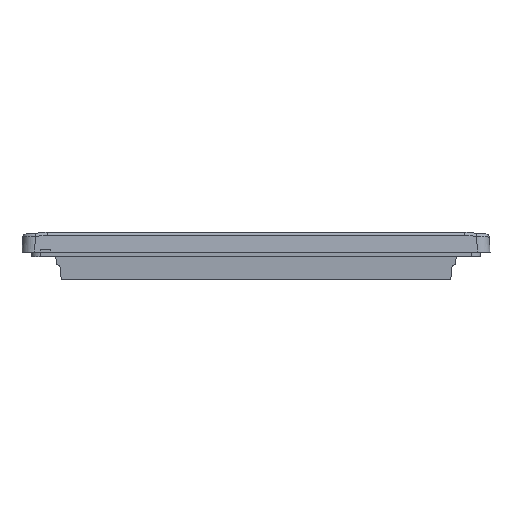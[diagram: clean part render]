
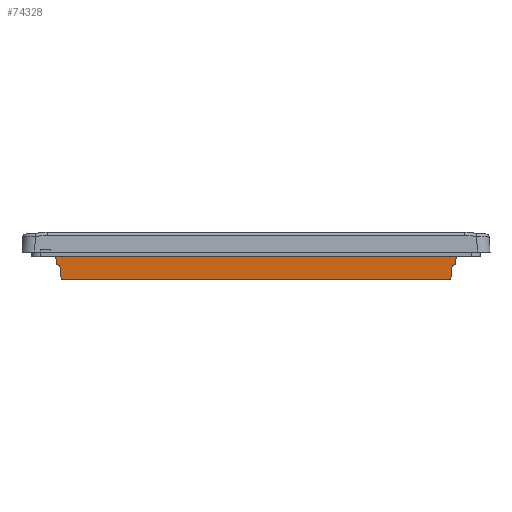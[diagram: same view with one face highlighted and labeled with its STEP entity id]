
A CAD part, front view. The second image highlights one B-rep face of the part: STEP entity #74328.
In plain terms, the highlighted free-form (B-spline) face has degree [1, 1] with [2, 2] control points.
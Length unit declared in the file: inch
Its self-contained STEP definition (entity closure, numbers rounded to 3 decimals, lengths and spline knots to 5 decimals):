
#72292=CARTESIAN_POINT('V1561',(4.0285,
   -14.89582,0.46686));
#72293=VERTEX_POINT('V1561',#72292);
#72299=CARTESIAN_POINT('V174',(4.04439,-14.91175,
   0.77));
#72300=VERTEX_POINT('V174',#72299);
#72301=CARTESIAN_POINT('E1599',(4.04439,
   -14.91175,0.77));
#72302=CARTESIAN_POINT('E1599',(4.0285,
   -14.89586,0.46686));
#72303=B_SPLINE_CURVE_WITH_KNOTS('E1599',1,(#72301,#72302),
   .POLYLINE_FORM.,.F.,.U.,(2,2),(0.35849,
   0.59068),.UNSPECIFIED.);
#72304=EDGE_CURVE('E1599',#72300,#72293,#72303,.T.);
#72402=CARTESIAN_POINT('V1568',(-7.05924,
   -14.89582,0.46686));
#72403=VERTEX_POINT('V1568',#72402);
#72410=CARTESIAN_POINT('V173',(-7.07513,
   -14.91175,0.77));
#72411=VERTEX_POINT('V173',#72410);
#72417=CARTESIAN_POINT('E1598',(-7.05924,
   -14.89586,0.46686));
#72418=CARTESIAN_POINT('E1598',(-7.07513,
   -14.91175,0.77));
#72419=B_SPLINE_CURVE_WITH_KNOTS('E1598',1,(#72417,#72418),
   .POLYLINE_FORM.,.F.,.U.,(2,2),(0.35849,
   0.59068),.UNSPECIFIED.);
#72420=EDGE_CURVE('E1598',#72403,#72411,#72419,.T.);
#72443=CARTESIAN_POINT('V1567',(-6.99933,
   -14.89288,0.41));
#72444=VERTEX_POINT('V1567',#72443);
#72445=CARTESIAN_POINT('E1597',(-6.99933,
   -14.89288,0.41));
#72446=CARTESIAN_POINT('E1597',(-7.01095,
   -14.89288,0.41));
#72447=CARTESIAN_POINT('E1597',(-7.04054,
   -14.89366,0.41877));
#72448=CARTESIAN_POINT('E1597',(-7.05872,
   -14.89476,0.44749));
#72449=CARTESIAN_POINT('E1597',(-7.05922,
   -14.89584,0.46686));
#72450=B_SPLINE_CURVE_WITH_KNOTS('E1597',3,(#72445,#72446,#72447,
   #72448,#72449),.UNSPECIFIED.,.F.,.U.,(4,1,4),(0.0,
   0.00085,0.00231),.UNSPECIFIED.);
#72451=EDGE_CURVE('E1597',#72444,#72403,#72450,.T.);
#72469=CARTESIAN_POINT('V1566',(-6.95613,
   -14.89288,0.41));
#72470=VERTEX_POINT('V1566',#72469);
#72471=CARTESIAN_POINT('E1596',(-6.99933,
   -14.89288,0.41));
#72472=CARTESIAN_POINT('E1596',(-6.95613,
   -14.89288,0.41));
#72473=B_SPLINE_CURVE_WITH_KNOTS('E1596',1,(#72471,#72472),
   .POLYLINE_FORM.,.F.,.U.,(2,2),(0.0,0.4314),
   .UNSPECIFIED.);
#72474=EDGE_CURVE('E1596',#72444,#72470,#72473,.T.);
#72490=CARTESIAN_POINT('V1565',(-6.92026,
   -14.87139,0.));
#72491=VERTEX_POINT('V1565',#72490);
#72492=CARTESIAN_POINT('E1595',(-6.95613,
   -14.89288,0.41));
#72493=CARTESIAN_POINT('E1595',(-6.92026,
   -14.87139,0.));
#72494=QUASI_UNIFORM_CURVE('E1595',1,(#72492,#72493),.POLYLINE_FORM.,
   .F.,.U.);
#72495=EDGE_CURVE('E1595',#72470,#72491,#72494,.T.);
#72512=CARTESIAN_POINT('V1564',(3.88951,
   -14.87139,0.));
#72513=VERTEX_POINT('V1564',#72512);
#72521=CARTESIAN_POINT('E1594',(3.88951,
   -14.87139,0.0));
#72522=CARTESIAN_POINT('E1594',(-6.92026,
   -14.87139,0.0));
#72523=QUASI_UNIFORM_CURVE('E1594',1,(#72521,#72522),.POLYLINE_FORM.,
   .F.,.U.);
#72524=EDGE_CURVE('E1594',#72513,#72491,#72523,.T.);
#74236=CARTESIAN_POINT('V1563',(3.92538,
   -14.89288,0.41));
#74237=VERTEX_POINT('V1563',#74236);
#74238=CARTESIAN_POINT('E1593',(3.92538,
   -14.89288,0.41));
#74239=CARTESIAN_POINT('E1593',(3.88951,
   -14.87139,0.));
#74240=QUASI_UNIFORM_CURVE('E1593',1,(#74238,#74239),.POLYLINE_FORM.,
   .F.,.U.);
#74241=EDGE_CURVE('E1593',#74237,#72513,#74240,.T.);
#74258=CARTESIAN_POINT('V1562',(3.96858,
   -14.89288,0.41));
#74259=VERTEX_POINT('V1562',#74258);
#74267=CARTESIAN_POINT('E1592',(3.96858,
   -14.89288,0.41));
#74268=CARTESIAN_POINT('E1592',(3.92538,
   -14.89288,0.41));
#74269=B_SPLINE_CURVE_WITH_KNOTS('E1592',1,(#74267,#74268),
   .POLYLINE_FORM.,.F.,.U.,(2,2),(0.0,0.4314),
   .UNSPECIFIED.);
#74270=EDGE_CURVE('E1592',#74259,#74237,#74269,.T.);
#74293=CARTESIAN_POINT('E1591',(4.02848,
   -14.89584,0.46686));
#74294=CARTESIAN_POINT('E1591',(4.02798,
   -14.89476,0.44749));
#74295=CARTESIAN_POINT('E1591',(4.00979,
   -14.89366,0.41877));
#74296=CARTESIAN_POINT('E1591',(3.98021,
   -14.89288,0.41));
#74297=CARTESIAN_POINT('E1591',(3.96858,
   -14.89288,0.41));
#74298=B_SPLINE_CURVE_WITH_KNOTS('E1591',3,(#74293,#74294,#74295,
   #74296,#74297),.UNSPECIFIED.,.F.,.U.,(4,1,4),(0.0,
   0.00146,0.00231),.UNSPECIFIED.);
#74299=EDGE_CURVE('E1591',#72293,#74259,#74298,.T.);
#74307=CARTESIAN_POINT('F44',(-7.08431,-14.91726,
   0.87511));
#74308=CARTESIAN_POINT('F44',(4.05357,-14.91726,
   0.87511));
#74309=CARTESIAN_POINT('F44',(-7.08431,-14.87119,
   -0.00393));
#74310=CARTESIAN_POINT('F44',(4.05357,-14.87119,
   -0.00393));
#74311=B_SPLINE_SURFACE_WITH_KNOTS('F44',1,1,((#74307,#74309),(
   #74308,#74310)),.PLANE_SURF.,.F.,.F.,.U.,(2,2),(2,2),(0.0,
   12.65309),(0.0,1.0),.UNSPECIFIED.);
#74312=ORIENTED_EDGE('E1591',*,*,#74299,.T.);
#74313=ORIENTED_EDGE('F826',*,*,#74270,.T.);
#74314=ORIENTED_EDGE('E1593',*,*,#74241,.T.);
#74315=ORIENTED_EDGE('F1620',*,*,#72524,.T.);
#74316=ORIENTED_EDGE('E1595',*,*,#72495,.F.);
#74317=ORIENTED_EDGE('E1596',*,*,#72474,.F.);
#74318=ORIENTED_EDGE('E1597',*,*,#72451,.T.);
#74319=ORIENTED_EDGE('F1613',*,*,#72420,.T.);
#74320=CARTESIAN_POINT('E201',(-7.07513,
   -14.91175,0.77));
#74321=CARTESIAN_POINT('E201',(4.04439,-14.91175,
   0.77));
#74322=QUASI_UNIFORM_CURVE('E201',1,(#74320,#74321),.POLYLINE_FORM.,
   .F.,.U.);
#74323=EDGE_CURVE('E201',#72411,#72300,#74322,.T.);
#74324=ORIENTED_EDGE('E201',*,*,#74323,.T.);
#74325=ORIENTED_EDGE('E1599',*,*,#72304,.T.);
#74326=EDGE_LOOP('F44',(#74312,#74313,#74314,#74315,#74316,#74317,
   #74318,#74319,#74324,#74325));
#74327=FACE_OUTER_BOUND('F44',#74326,.F.);
#74328=ADVANCED_FACE('F44',(#74327),#74311,.F.);
